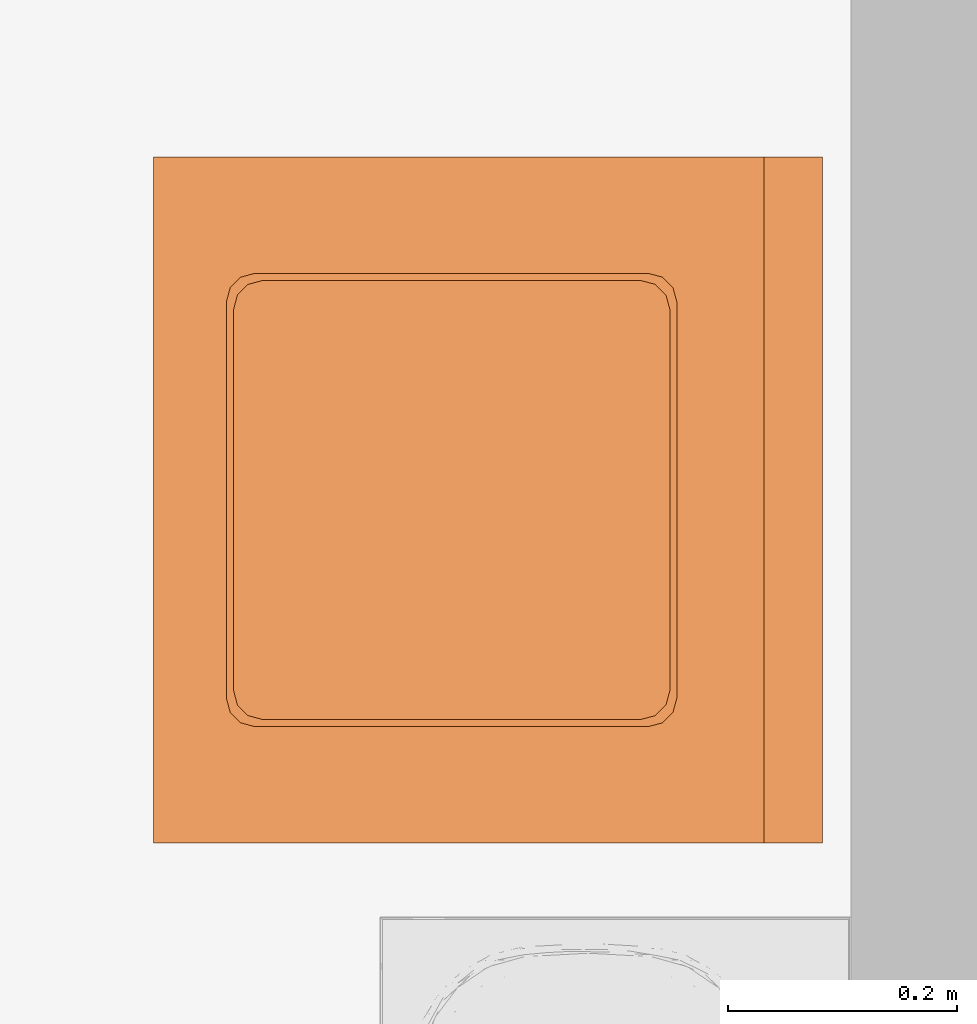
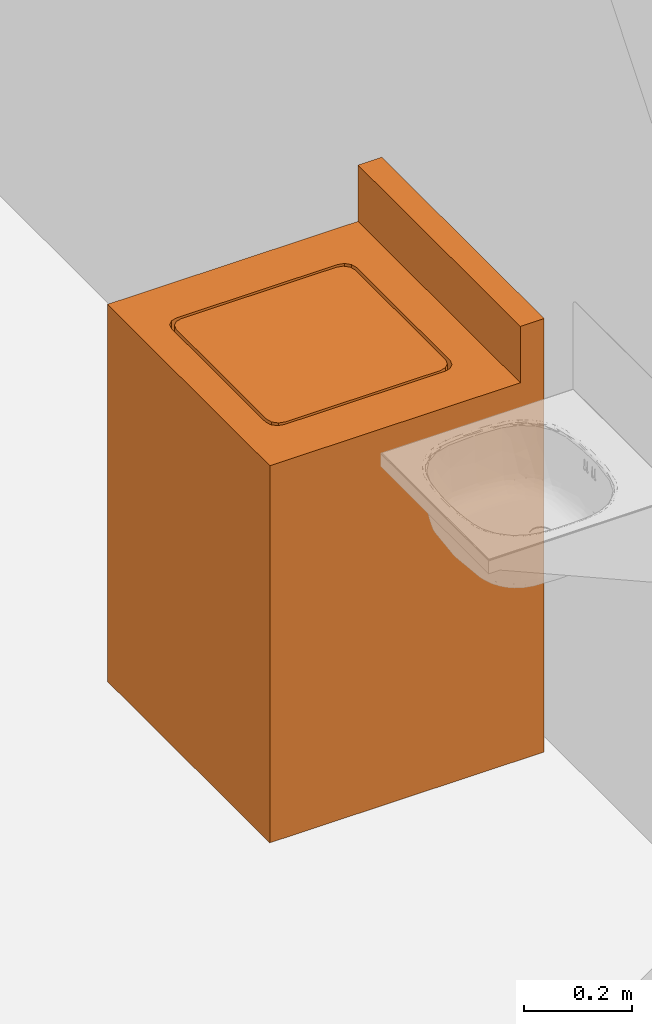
# One storey, part 23 of 23: 1 proxy.
"""IFC2X3 building model written with IfcOpenShell, lengths in millimetres."""

from ifc_helpers import new_model, entity, si_unit, converted_unit, derived_unit, direction, frame, origin, place, context, subcontext, project, spatial, faceted_brep, source, transform, mapped, material, type_object, type_shapes, element, save


model = new_model("IFC2X3")

# Units and contexts
model_context = context("Model", 3, precision=0.01, world=origin(), true_north=direction((6.12303176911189e-17, 1.0)))
body_context = subcontext(model_context, "Body", "Model", "MODEL_VIEW")
ifc_project = project(units=[si_unit("LENGTHUNIT", "METRE", prefix="MILLI"), si_unit("AREAUNIT", "SQUARE_METRE"), si_unit("VOLUMEUNIT", "CUBIC_METRE"), converted_unit("PLANEANGLEUNIT", "DEGREE", entity("IfcRatioMeasure", 0.0174532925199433), si_unit("PLANEANGLEUNIT", "RADIAN"), dimensions=[0, 0, 0, 0, 0, 0, 0]), si_unit("MASSUNIT", "GRAM", prefix="KILO"), derived_unit("MASSDENSITYUNIT", [(si_unit("MASSUNIT", "GRAM", prefix="KILO"), 1), (si_unit("LENGTHUNIT", "METRE"), -3)]), si_unit("TIMEUNIT", "SECOND"), si_unit("FREQUENCYUNIT", "HERTZ"), si_unit("THERMODYNAMICTEMPERATUREUNIT", "DEGREE_CELSIUS"), derived_unit("THERMALTRANSMITTANCEUNIT", [(si_unit("MASSUNIT", "GRAM", prefix="KILO"), 1), (si_unit("THERMODYNAMICTEMPERATUREUNIT", "KELVIN"), -1), (si_unit("TIMEUNIT", "SECOND"), -3)]), derived_unit("VOLUMETRICFLOWRATEUNIT", [(si_unit("LENGTHUNIT", "METRE"), 3), (si_unit("TIMEUNIT", "SECOND"), -1)]), si_unit("ELECTRICCURRENTUNIT", "AMPERE"), si_unit("ELECTRICVOLTAGEUNIT", "VOLT"), si_unit("POWERUNIT", "WATT"), si_unit("FORCEUNIT", "NEWTON", prefix="KILO"), si_unit("ILLUMINANCEUNIT", "LUX"), si_unit("LUMINOUSFLUXUNIT", "LUMEN"), si_unit("LUMINOUSINTENSITYUNIT", "CANDELA"), derived_unit("USERDEFINED", [(si_unit("MASSUNIT", "GRAM", prefix="KILO"), -1), (si_unit("LENGTHUNIT", "METRE"), -2), (si_unit("TIMEUNIT", "SECOND"), 3), (si_unit("LUMINOUSFLUXUNIT", "LUMEN"), 1)]), derived_unit("LINEARVELOCITYUNIT", [(si_unit("LENGTHUNIT", "METRE"), 1), (si_unit("TIMEUNIT", "SECOND"), -1)]), si_unit("PRESSUREUNIT", "PASCAL"), derived_unit("USERDEFINED", [(si_unit("LENGTHUNIT", "METRE"), -2), (si_unit("MASSUNIT", "GRAM", prefix="KILO"), 1), (si_unit("TIMEUNIT", "SECOND"), -2)]), derived_unit("LINEARFORCEUNIT", [(si_unit("MASSUNIT", "GRAM", prefix="KILO"), 1), (si_unit("LENGTHUNIT", "METRE"), 1), (si_unit("TIMEUNIT", "SECOND"), -2), (si_unit("LENGTHUNIT", "METRE"), -1)]), derived_unit("PLANARFORCEUNIT", [(si_unit("MASSUNIT", "GRAM", prefix="KILO"), 1), (si_unit("LENGTHUNIT", "METRE"), 1), (si_unit("TIMEUNIT", "SECOND"), -2), (si_unit("LENGTHUNIT", "METRE"), -2)])], contexts=[model_context])

# Site, building, storey, space
site_placement = place(None, origin())
site = spatial("IfcSite", under=ifc_project, at=site_placement, Name="Default", CompositionType="ELEMENT")
building_placement = place(site_placement, origin())
building = spatial("IfcBuilding", under=site, at=building_placement, Name="SMA ARH", CompositionType="ELEMENT")
storey_placement = place(building_placement, frame((0.0, 0.0, -2800.0)))
storey = spatial("IfcBuildingStorey", under=building, at=storey_placement, Name="0 Sokkel", CompositionType="ELEMENT", Elevation=-2800.0)
space_placement = place(storey_placement, origin())
space = spatial("IfcSpace", under=storey, at=space_placement, Name="0-20", CompositionType="ELEMENT", InteriorOrExteriorSpace="INTERNAL")

# Proxy
ifc_material = material(Name="Metal - Paint Finish - Ivory, Matte")
building_element_proxy_type = type_object("IfcBuildingElementProxyType", Name="M_Washer:600 x 600 x 850mm", PredefinedType="NOTDEFINED", material=ifc_material)
shared_shape = source(origin(), body_context, "Body", "Brep", [
    faceted_brep([(488.647045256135, 438.949999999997, 824.599999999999), (490.348522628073, 432.599999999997, 824.599999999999), (492.05000000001, 426.249999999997, 824.599999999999), (492.05000000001, 95.2499999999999, 824.599999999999), (490.085303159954, 87.9176515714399, 824.599999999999), (488.647045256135, 82.5499999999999, 824.599999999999), (483.998522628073, 77.9014773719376, 824.599999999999), (479.350000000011, 73.252954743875, 824.599999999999), (473.0, 71.5514773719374, 824.599999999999), (466.65000000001, 69.8499999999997, 824.599999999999), (133.35, 69.8499999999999, 824.599999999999), (126.017651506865, 71.8146968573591, 824.599999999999), (120.65, 73.2529547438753, 824.599999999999), (116.001477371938, 77.9014773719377, 824.599999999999), (111.352954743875, 82.5500000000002, 824.599999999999), (109.651477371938, 88.9000000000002, 824.599999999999), (107.95, 95.2500000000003, 824.599999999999), (107.95, 426.249999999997, 824.599999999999), (109.914696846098, 433.582348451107, 824.599999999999), (111.352954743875, 438.949999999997, 824.599999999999), (116.001477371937, 443.598522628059, 824.599999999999), (120.65, 448.247045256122, 824.599999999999), (127.0, 449.948522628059, 824.599999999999), (133.35, 451.649999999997, 824.599999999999), (466.65000000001, 451.649999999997, 824.599999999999), (473.982348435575, 449.685303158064, 824.599999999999), (479.35000000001, 448.247045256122, 824.599999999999), (483.998522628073, 443.598522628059, 824.599999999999), (492.05000000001, 95.2499999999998, 850.0), (492.05000000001, 426.249999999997, 850.0), (490.085303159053, 433.582348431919, 850.0), (488.647045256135, 438.949999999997, 850.0), (483.998522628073, 443.598522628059, 850.0), (479.35000000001, 448.247045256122, 850.0), (473.0, 449.948522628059, 850.0), (466.65000000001, 451.649999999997, 850.0), (133.35, 451.649999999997, 850.0), (127.0, 449.948522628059, 850.0), (120.65, 448.247045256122, 850.0), (116.001477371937, 443.598522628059, 850.0), (111.352954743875, 438.949999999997, 850.0), (109.651477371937, 432.599999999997, 850.0), (107.95, 426.249999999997, 850.0), (107.95, 95.2500000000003, 850.0), (109.651477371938, 88.9000000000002, 850.0), (111.352954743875, 82.5500000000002, 850.0), (116.001477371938, 77.9014773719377, 850.0), (120.65, 73.2529547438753, 850.0), (127.0, 71.5514773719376, 850.0), (133.35, 69.8499999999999, 850.0), (466.65000000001, 69.8499999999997, 850.0), (473.982348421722, 71.8146968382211, 850.0), (479.350000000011, 73.252954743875, 850.0), (483.998522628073, 77.9014773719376, 850.0), (488.647045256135, 82.5499999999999, 850.0), (490.348522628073, 88.9000000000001, 850.0)], [[[0, 1, 2, 3, 4, 5, 6, 7, 8, 9, 10, 11, 12, 13, 14, 15, 16, 17, 18, 19, 20, 21, 22, 23, 24, 25, 26, 27]], [[28, 29, 30, 31, 32, 33, 34, 35, 36, 37, 38, 39, 40, 41, 42, 43, 44, 45, 46, 47, 48, 49, 50, 51, 52, 53, 54, 55]], [[40, 19, 18, 17, 42, 41]], [[21, 20, 19, 40, 39, 38]], [[23, 22, 21, 38, 37, 36]], [[24, 23, 36, 35]], [[33, 26, 25, 24, 35, 34]], [[0, 27, 26, 33, 32, 31]], [[0, 31, 30, 29, 2, 1]], [[3, 2, 29, 28]], [[54, 5, 4, 3, 28, 55]], [[7, 6, 5, 54, 53, 52]], [[7, 52, 51, 50, 9, 8]], [[10, 9, 50, 49]], [[47, 12, 11, 10, 49, 48]], [[46, 45, 14, 13, 12, 47]], [[43, 16, 15, 14, 45, 44]], [[17, 16, 43, 42]]]),
    faceted_brep([(0.0, 534.2, 850.0), (127.0, 457.818630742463, 850.0), (473.0, 457.818630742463, 850.0), (600.0, 534.2, 850.0), (120.649999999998, 456.117153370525, 850.0), (114.299999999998, 454.415675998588, 850.0), (109.651477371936, 449.767153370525, 850.0), (105.002954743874, 445.118630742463, 850.0), (103.564696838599, 439.750979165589, 850.0), (101.599999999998, 432.418630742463, 850.0), (0.0, 0.0, 850.0), (101.599999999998, 88.9000000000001, 850.0), (103.301477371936, 82.5500000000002, 850.0), (105.002954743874, 76.2000000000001, 850.0), (109.651477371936, 71.5514773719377, 850.0), (114.299999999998, 66.9029547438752, 850.0), (119.667651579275, 65.4646968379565, 850.0), (127.0, 63.4999999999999, 850.0), (473.0, 63.4999999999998, 850.0), (600.0, 0.0, 850.0), (498.399999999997, 432.418630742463, 850.0), (498.399999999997, 88.8999999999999, 850.0), (496.435303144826, 81.5676515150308, 850.0), (494.997045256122, 76.1999999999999, 850.0), (490.348522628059, 71.5514773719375, 850.0), (479.349999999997, 65.2014773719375, 850.0), (485.699999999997, 66.9029547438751, 850.0), (480.33234843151, 455.853933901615, 850.0), (485.699999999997, 454.415675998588, 850.0), (490.348522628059, 449.767153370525, 850.0), (494.997045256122, 445.118630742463, 850.0), (496.698522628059, 438.768630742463, 850.0), (600.0, 0.0, 0.0), (0.0, 0.0, 0.0), (0.0, 585.0, 0.0), (600.0, 585.0, 0.0), (0.0, 534.2, 977.0), (0.0, 585.0, 977.0), (600.0, 585.0, 977.0), (600.0, 534.2, 977.0), (127.0, 457.818630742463, 799.199999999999), (119.667651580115, 455.853933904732, 799.199999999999), (114.299999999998, 454.415675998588, 799.199999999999), (109.651477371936, 449.767153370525, 799.199999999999), (105.002954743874, 445.118630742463, 799.199999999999), (103.301477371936, 438.768630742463, 799.199999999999), (101.599999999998, 432.418630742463, 799.199999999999), (101.599999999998, 88.9, 799.199999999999), (103.564696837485, 81.5676515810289, 799.199999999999), (105.002954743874, 76.1999999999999, 799.199999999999), (109.651477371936, 71.5514773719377, 799.199999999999), (114.299999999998, 66.9029547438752, 799.199999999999), (120.649999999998, 65.2014773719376, 799.199999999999), (127.0, 63.4999999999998, 799.199999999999), (473.0, 63.4999999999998, 799.199999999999), (480.332349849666, 65.4646972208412, 799.199999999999), (485.699999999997, 66.9029547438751, 799.199999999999), (490.348522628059, 71.5514773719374, 799.199999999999), (494.997045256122, 76.1999999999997, 799.199999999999), (496.698522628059, 82.5499999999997, 799.199999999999), (498.399999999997, 88.8999999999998, 799.199999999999), (498.399999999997, 432.418630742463, 799.199999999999), (496.435303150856, 439.750979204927, 799.199999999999), (494.997045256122, 445.118630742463, 799.199999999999), (490.348522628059, 449.767153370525, 799.199999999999), (485.699999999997, 454.415675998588, 799.199999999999), (479.349999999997, 456.117153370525, 799.199999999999), (473.0, 457.818630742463, 799.199999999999)], [[[0, 1, 2]], [[2, 3, 0]], [[0, 4, 1]], [[0, 5, 4]], [[0, 6, 5]], [[0, 7, 6]], [[0, 8, 7]], [[0, 9, 8]], [[0, 10, 9]], [[11, 9, 10]], [[10, 12, 11]], [[10, 13, 12]], [[10, 14, 13]], [[10, 15, 14]], [[10, 16, 15]], [[10, 17, 16]], [[17, 10, 18]], [[19, 18, 10]], [[3, 20, 19]], [[21, 19, 20]], [[19, 21, 22]], [[19, 22, 23]], [[19, 23, 24]], [[19, 25, 18]], [[19, 26, 25]], [[19, 24, 26]], [[3, 2, 27]], [[3, 27, 28]], [[3, 28, 29]], [[3, 29, 30]], [[3, 30, 31]], [[3, 31, 20]], [[32, 33, 34, 35]], [[0, 36, 37, 34, 33, 10]], [[19, 10, 33, 32]], [[3, 19, 32, 35, 38, 39]], [[37, 38, 35, 34]], [[36, 0, 3, 39]], [[37, 36, 39, 38]], [[40, 41, 42, 43, 44, 45, 46, 47, 48, 49, 50, 51, 52, 53, 54, 55, 56, 57, 58, 59, 60, 61, 62, 63, 64, 65, 66, 67]], [[67, 2, 1, 40]], [[42, 41, 40, 1, 4, 5]], [[44, 43, 42, 5, 6, 7]], [[9, 46, 45, 44, 7, 8]], [[46, 9, 11, 47]], [[49, 48, 47, 11, 12, 13]], [[51, 50, 49, 13, 14, 15]], [[17, 53, 52, 51, 15, 16]], [[53, 17, 18, 54]], [[56, 55, 54, 18, 25, 26]], [[58, 57, 56, 26, 24, 23]], [[21, 60, 59, 58, 23, 22]], [[60, 21, 20, 61]], [[63, 62, 61, 20, 31, 30]], [[65, 64, 63, 30, 29, 28]], [[2, 67, 66, 65, 28, 27]]]),
])
type_shapes(building_element_proxy_type, [shared_shape])
proxy_placement = place(space_placement, frame((30960.0, 9755.0, 0.0), z_axis=(0.0, 0.0, 1.0), x_axis=(0.0, -1.0, 0.0)))
element("IfcBuildingElementProxy", 1, at=proxy_placement, inside=space, type_object=building_element_proxy_type, material=ifc_material, Name="M_Washer:600 x 600 x 850mm", ObjectType="M_Washer:600 x 600 x 850mm", context=body_context, shape_type="MappedRepresentation", body=[
    mapped(shared_shape, transform((0.0, 0.0, 0.0), scale=1.0)),
])

save(model, "model.ifc")
